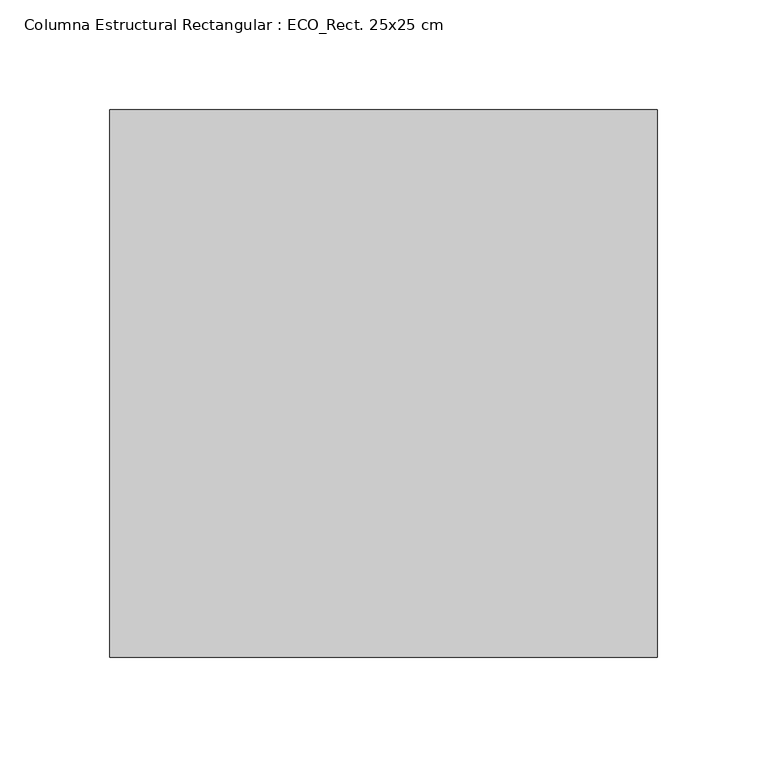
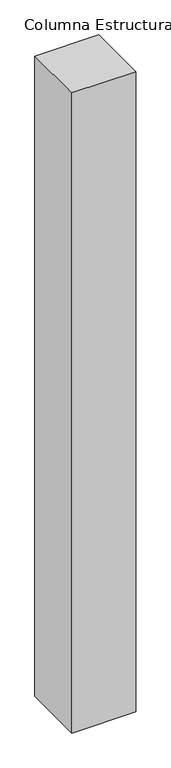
"""IFC4 building model written with IfcOpenShell, lengths in millimetres: column geometry, Columna Estructural Rectangular : ECO_Rect. 25x25 cm."""

from ifc_helpers import new_model, si_unit, frame, origin, place, context, project, spatial, polyline, outline, extrude, source, transform, mapped, element, save


def columna_estructural_rectangular_eco_rect_25x25_cm_52335a65(model_context):
    return source(origin(), model_context, "Body", "SweptSolid", [
        extrude(outline(polyline([(125.0, 125.0), (125.0, -125.0), (-125.0, -125.0), (-125.0, 125.0), (125.0, 125.0)])), frame((0.0, 0.0, 2750.0), z_axis=(0.0, 0.0, 1.0), x_axis=(1.0, 0.0, 0.0)), (0.0, 0.0, 1.0), 2650.0),
    ])


if __name__ == "__main__":
    model = new_model("IFC4")
    model_context = context("Model", 3, world=origin())
    ifc_project = project(units=[si_unit("LENGTHUNIT", "METRE", prefix="MILLI")], contexts=[model_context])
    site = spatial("IfcSite", under=ifc_project)
    building = spatial("IfcBuilding", under=site)
    placement = place(None, origin())
    columna_estructural_rectangular_eco_rect_25x25_cm_shape = columna_estructural_rectangular_eco_rect_25x25_cm_52335a65(model_context)
    element("IfcColumn", 1, ObjectType="Columna Estructural Rectangular : ECO_Rect. 25x25 cm", at=placement, inside=building, context=model_context, shape_type="MappedRepresentation", body=[
        mapped(columna_estructural_rectangular_eco_rect_25x25_cm_shape, transform((0.0, 0.0, 0.0), x_axis=(1.0, 0.0, 0.0), y_axis=(0.0, 1.0, 0.0), z_axis=(0.0, 0.0, 1.0))),
    ])
    save(model, "model.ifc")
